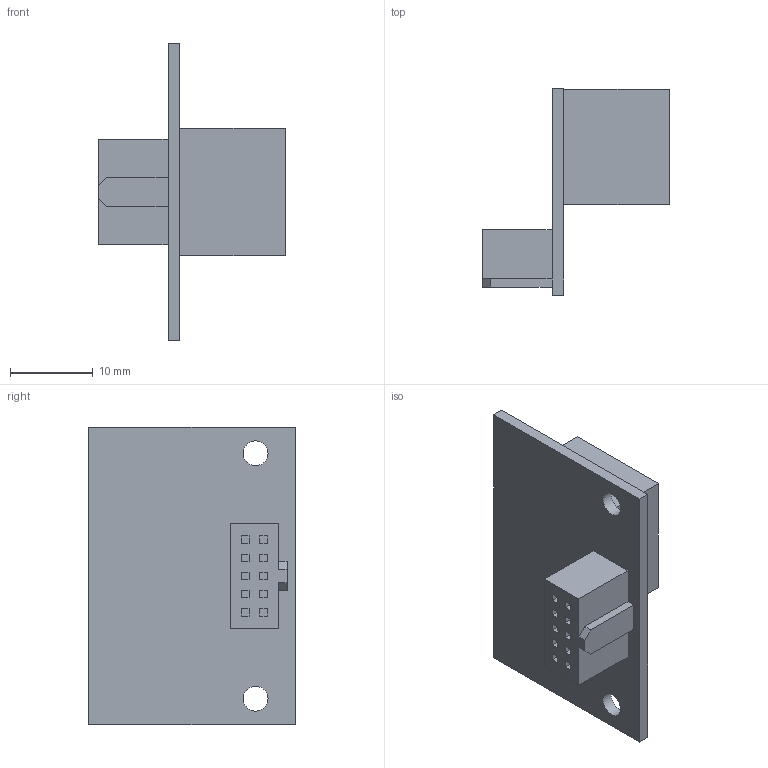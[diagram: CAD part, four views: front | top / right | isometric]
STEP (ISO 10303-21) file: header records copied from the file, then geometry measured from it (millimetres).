
FILE_DESCRIPTION(('STEP AP203'), '1');
FILE_NAME('Ïëàòà ïåðåõîäíàÿ _ LCI-MF-S TB-3', '', ('UNSPECIFIED'), ('UNSPECIFIED'), 'C3D Converter', 'C3D Toolkit', '');
FILE_SCHEMA(('CONFIG_CONTROL_DESIGN'));
Length unit declared in the file: millimetre
Products named in the file (1): LCI-TB
Bounding box: 22.6 x 25 x 36 mm (x, y, z)
Volume: 3478.9 mm3; surface area: 3801.9 mm2
Topology: 1 solids, 1 shells, 95 faces, 240 edges, 160 vertices
Faces by surface type: plane 93, cylinder 2
Full cylindrical faces by diameter (mm): 3 x2
Entity records: 3596 total; most frequent: CARTESIAN_POINT 494, ORIENTED_EDGE 476, DIRECTION 434, EDGE_CURVE 238, LINE 234, VECTOR 234, VERTEX_POINT 160, EDGE_LOOP 114
